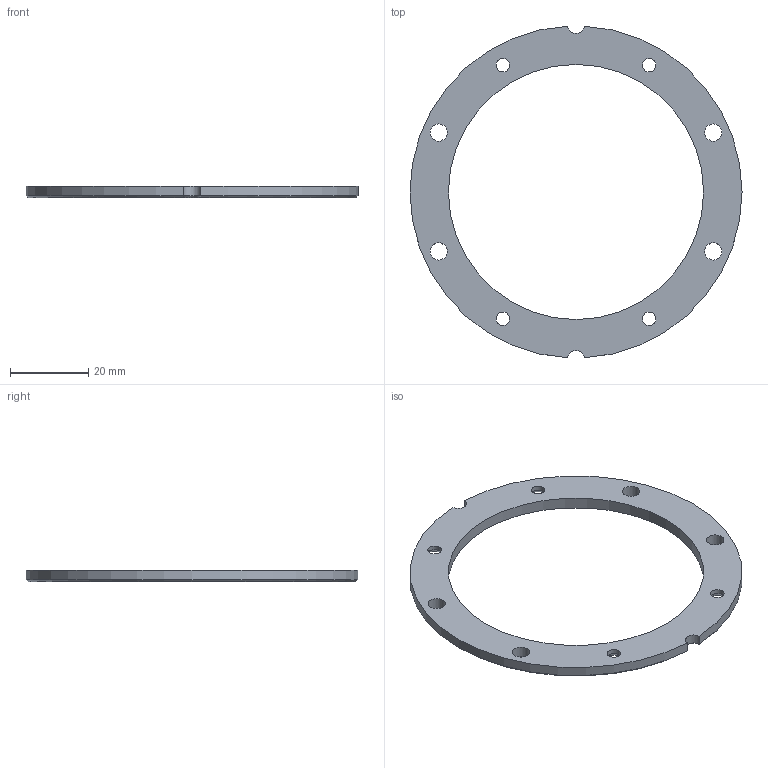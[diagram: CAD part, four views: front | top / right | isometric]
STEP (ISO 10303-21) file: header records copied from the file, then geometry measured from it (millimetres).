
FILE_DESCRIPTION(/* description */ ('Alibre Inc.'),/* implementation_level */ '2;1');
FILE_NAME(/* name */ 'export-F2F8D586-3280-42FD-9DD7-2D95FF70FB6B',/* time_stamp */ '2026-01-19T12:55:00+00:00',/* author */ (''),/* organization */ (''),/* preprocessor_version */ 'ST-DEVELOPER v17',/* originating_system */ 'Alibre',/* authorisation */ '');
FILE_SCHEMA (('CONFIG_CONTROL_DESIGN'));
Length unit declared in the file: millimetre
Bounding box: 84.6 x 84.49 x 3 mm (x, y, z)
Volume: 6452.2 mm3; surface area: 5994.5 mm2
Topology: 1 solids, 1 shells, 23 faces, 55 edges, 34 vertices
Faces by surface type: cylinder 13, cone 8, plane 2
Full cylindrical faces by diameter (mm): 3.4 x4, 4.4 x4, 65 x1
Entity records: 727 total; most frequent: DIRECTION 112, CARTESIAN_POINT 109, ORIENTED_EDGE 84, AXIS2_PLACEMENT_3D 55, EDGE_LOOP 54, FACE_BOUND 54, EDGE_CURVE 42, VERTEX_POINT 34
